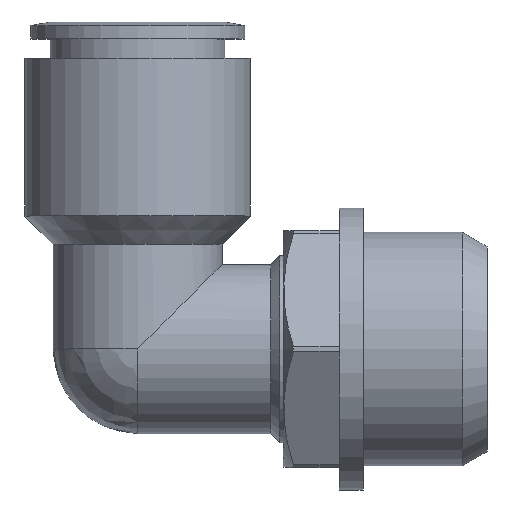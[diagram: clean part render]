
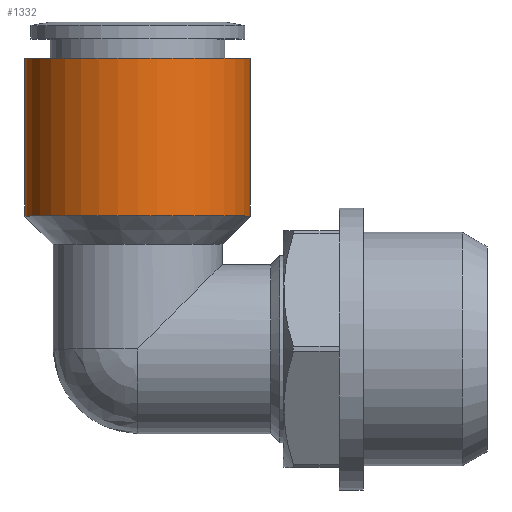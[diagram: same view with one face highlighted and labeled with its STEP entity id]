
A CAD part, top view. The second image highlights one B-rep face of the part: STEP entity #1332.
In plain terms, the highlighted cylindrical face has radius 10 mm (diameter 20 mm), a full revolution.
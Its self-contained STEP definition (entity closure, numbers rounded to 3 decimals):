
#1298=CARTESIAN_POINT('',(-10.0,11.8,0.0));
#1299=VERTEX_POINT('',#1298);
#1300=CARTESIAN_POINT('',(0.0,11.8,0.0));
#1301=DIRECTION('',(0.0,1.0,0.0));
#1302=DIRECTION('',(-1.0,0.0,0.0));
#1303=AXIS2_PLACEMENT_3D('',#1300,#1301,#1302);
#1304=CIRCLE('',#1303,10.0);
#1305=EDGE_CURVE('',#1299,#1299,#1304,.T.);
#1313=CARTESIAN_POINT('',(0.0,18.8,0.0));
#1314=DIRECTION('',(0.0,1.0,0.0));
#1315=DIRECTION('',(-1.0,0.0,0.0));
#1316=AXIS2_PLACEMENT_3D('',#1313,#1314,#1315);
#1317=CYLINDRICAL_SURFACE('',#1316,10.0);
#1318=CARTESIAN_POINT('',(-10.0,25.8,0.0));
#1319=VERTEX_POINT('',#1318);
#1320=CARTESIAN_POINT('',(0.0,25.8,0.0));
#1321=DIRECTION('',(0.0,1.0,0.0));
#1322=DIRECTION('',(-1.0,0.0,0.0));
#1323=AXIS2_PLACEMENT_3D('',#1320,#1321,#1322);
#1324=CIRCLE('',#1323,10.0);
#1325=EDGE_CURVE('',#1319,#1319,#1324,.T.);
#1326=ORIENTED_EDGE('',*,*,#1325,.F.);
#1327=EDGE_LOOP('',(#1326));
#1328=FACE_OUTER_BOUND('',#1327,.T.);
#1329=ORIENTED_EDGE('',*,*,#1305,.T.);
#1330=EDGE_LOOP('',(#1329));
#1331=FACE_BOUND('',#1330,.T.);
#1332=ADVANCED_FACE('',(#1328,#1331),#1317,.T.);
